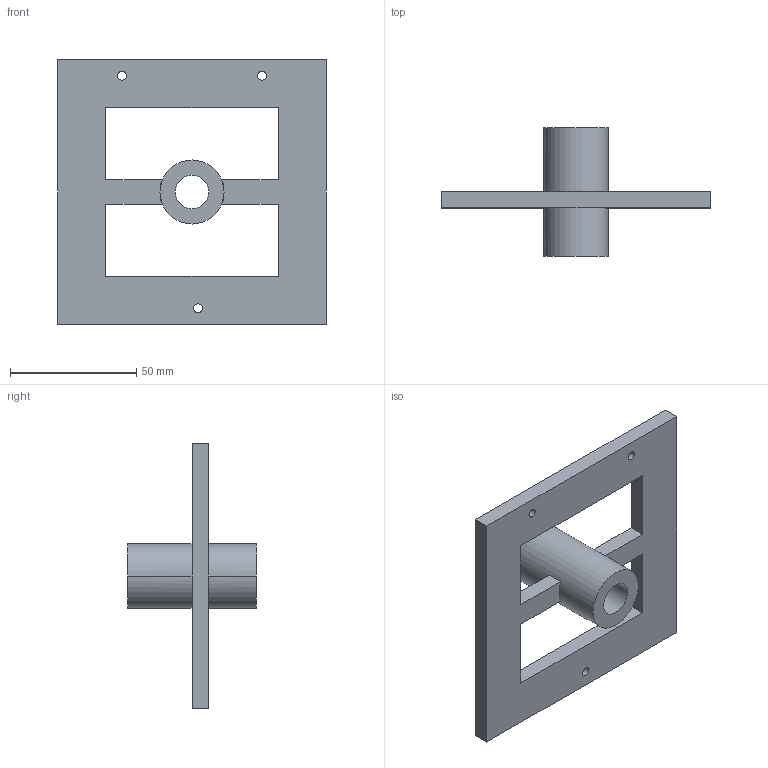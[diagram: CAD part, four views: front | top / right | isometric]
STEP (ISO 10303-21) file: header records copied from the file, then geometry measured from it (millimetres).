
FILE_DESCRIPTION((''),'2;1');
FILE_NAME('LASER_MOUNT','2016-03-15T',('Luke Baldwin'),(''),'CREO PARAMETRIC BY PTC INC, 2015380','CREO PARAMETRIC BY PTC INC, 2015380','');
FILE_SCHEMA(('CONFIG_CONTROL_DESIGN'));
Length unit declared in the file: inch
Products named in the file (1): LASER_MOUNT
Bounding box: 106.36 x 50.8 x 104.78 mm (x, y, z)
Volume: 62928.2 mm3; surface area: 25802.5 mm2
Topology: 1 solids, 1 shells, 28 faces, 84 edges, 56 vertices
Faces by surface type: plane 18, cylinder 10
Entity records: 1020 total; most frequent: DIRECTION 168, CARTESIAN_POINT 168, ORIENTED_EDGE 168, EDGE_CURVE 84, VECTOR 56, LINE 56, AXIS2_PLACEMENT_3D 56, VERTEX_POINT 56
